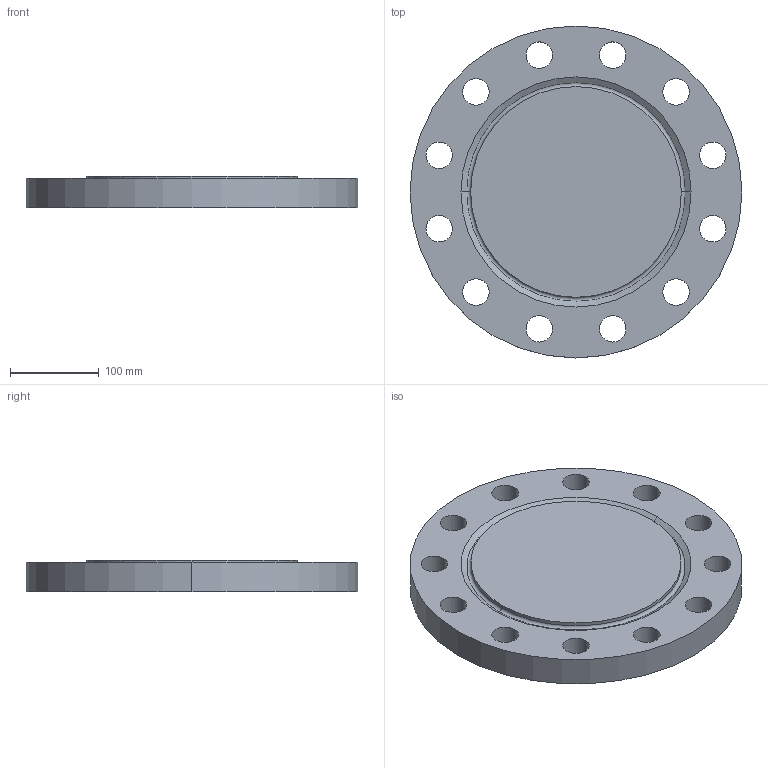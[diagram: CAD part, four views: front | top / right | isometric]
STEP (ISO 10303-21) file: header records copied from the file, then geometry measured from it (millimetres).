
FILE_DESCRIPTION (( 'STEP AP214' ), '1' );
FILE_NAME ('PN40 DN200 Type 05 - Type H Face.STEP', '2019-01-05T02:23:27', ( '' ), ( '' ), 'SwSTEP 2.0', 'SolidWorks 2019', '' );
FILE_SCHEMA (( 'AUTOMOTIVE_DESIGN' ));
Length unit declared in the file: millimetre
Products named in the file (1): PN40 DN200 Type 05 - Type H Face
Bounding box: 375 x 375 x 36 mm (x, y, z)
Volume: 3502677.7 mm3; surface area: 286555.4 mm2
Topology: 1 solids, 1 shells, 35 faces, 92 edges, 60 vertices
Faces by surface type: cylinder 28, plane 3, torus 2, cone 2
Entity records: 1198 total; most frequent: DIRECTION 226, CARTESIAN_POINT 188, ORIENTED_EDGE 184, AXIS2_PLACEMENT_3D 98, EDGE_CURVE 92, CIRCLE 62, EDGE_LOOP 60, VERTEX_POINT 60
